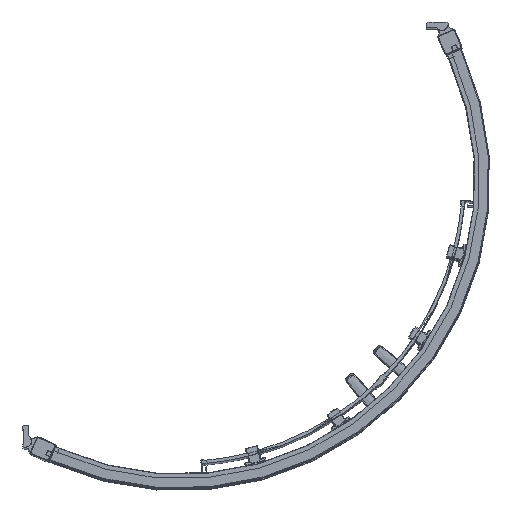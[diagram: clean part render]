
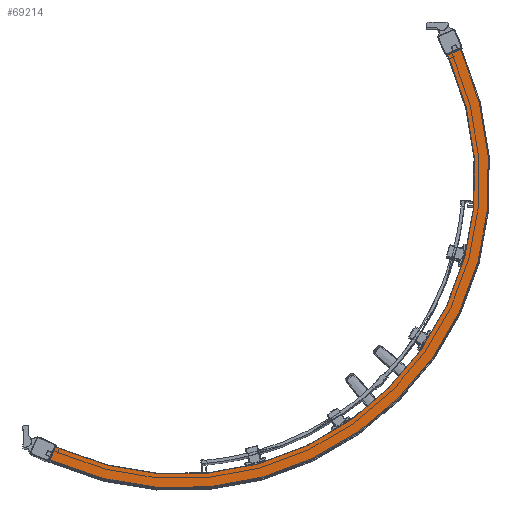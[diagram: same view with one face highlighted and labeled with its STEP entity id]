
A CAD part, top view. The second image highlights one B-rep face of the part: STEP entity #69214.
In plain terms, the highlighted planar face has unit normal (0, 0, 1).
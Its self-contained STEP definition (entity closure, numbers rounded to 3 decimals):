
#6411=FACE_OUTER_BOUND($,#10304,.T.);
#10304=EDGE_LOOP($,(#59110,#59111,#59112,#59113,#59114,#59115,#59116,#59117));
#15682=LINE($,#161779,#21456);
#15750=LINE($,#161982,#21524);
#15754=LINE($,#161992,#21528);
#15916=LINE($,#162450,#21690);
#15920=LINE($,#162457,#21694);
#15921=LINE($,#162459,#21695);
#21456=VECTOR($,#93044,26.4);
#21524=VECTOR($,#93224,10.);
#21528=VECTOR($,#93232,10.);
#21690=VECTOR($,#93724,26.4);
#21694=VECTOR($,#93734,10.);
#21695=VECTOR($,#93737,10.);
#24926=CIRCLE($,#75579,561.6);
#24928=CIRCLE($,#75582,588.);
#30775=VERTEX_POINT($,#161776);
#30776=VERTEX_POINT($,#161778);
#30854=VERTEX_POINT($,#161979);
#30855=VERTEX_POINT($,#161981);
#30857=VERTEX_POINT($,#161986);
#30859=VERTEX_POINT($,#161990);
#30951=VERTEX_POINT($,#162282);
#30953=VERTEX_POINT($,#162287);
#40074=EDGE_CURVE($,#30775,#30776,#15682,.T.);
#40173=EDGE_CURVE($,#30854,#30855,#15750,.T.);
#40178=EDGE_CURVE($,#30857,#30859,#15754,.T.);
#40325=EDGE_CURVE($,#30951,#30854,#24926,.T.);
#40328=EDGE_CURVE($,#30953,#30857,#24928,.T.);
#40411=EDGE_CURVE($,#30859,#30855,#15916,.T.);
#40415=EDGE_CURVE($,#30951,#30776,#15920,.T.);
#40416=EDGE_CURVE($,#30775,#30953,#15921,.T.);
#59110=ORIENTED_EDGE($,*,*,#40415,.T.);
#59111=ORIENTED_EDGE($,*,*,#40074,.F.);
#59112=ORIENTED_EDGE($,*,*,#40416,.T.);
#59113=ORIENTED_EDGE($,*,*,#40328,.T.);
#59114=ORIENTED_EDGE($,*,*,#40178,.T.);
#59115=ORIENTED_EDGE($,*,*,#40411,.T.);
#59116=ORIENTED_EDGE($,*,*,#40173,.F.);
#59117=ORIENTED_EDGE($,*,*,#40325,.F.);
#62083=PLANE($,#75666);
#69214=ADVANCED_FACE($,(#6411),#62083,.F.);
#75579=AXIS2_PLACEMENT_3D($,#162284,#93513,#93514);
#75582=AXIS2_PLACEMENT_3D($,#162290,#93520,#93521);
#75666=AXIS2_PLACEMENT_3D($,#162458,#93735,#93736);
#93044=DIRECTION($,(0.41,0.912,0.));
#93224=DIRECTION($,(-0.41,0.912,0.));
#93232=DIRECTION($,(-0.41,0.912,0.));
#93513=DIRECTION('center_axis',(0.,0.,
1.));
#93514=DIRECTION('ref_axis',(-0.41,-0.912,0.));
#93520=DIRECTION('center_axis',(0.,0.,
1.));
#93521=DIRECTION('ref_axis',(-0.41,-0.912,0.));
#93724=DIRECTION($,(-0.912,-0.41,0.));
#93734=DIRECTION($,(-0.912,0.41,0.));
#93735=DIRECTION('center_axis',(0.,0.,
-1.));
#93736=DIRECTION('ref_axis',(0.41,0.912,0.));
#93737=DIRECTION($,(0.912,-0.41,0.));
#161776=CARTESIAN_POINT('',(-64.727,-126.395,2010.));
#161778=CARTESIAN_POINT('',(-53.898,-102.318,2010.));
#161779=CARTESIAN_POINT($,(-64.727,-126.395,2010.));
#161979=CARTESIAN_POINT('',(697.772,636.129,2010.));
#161981=CARTESIAN_POINT('',(693.67,645.249,2010.));
#161982=CARTESIAN_POINT($,(697.772,636.129,2010.));
#161986=CARTESIAN_POINT('',(721.848,646.959,2010.));
#161990=CARTESIAN_POINT('',(717.746,656.079,2010.));
#161992=CARTESIAN_POINT($,(721.848,646.959,2010.));
#162282=CARTESIAN_POINT('',(-44.778,-106.421,2010.));
#162284=CARTESIAN_POINT('Origin',(185.599,405.752,2010.));
#162287=CARTESIAN_POINT('',(-55.607,-130.497,2010.));
#162290=CARTESIAN_POINT('Origin',(185.599,405.752,2010.));
#162450=CARTESIAN_POINT($,(717.746,656.079,2010.));
#162457=CARTESIAN_POINT($,(-53.898,-102.318,2010.));
#162458=CARTESIAN_POINT('Origin',(-64.727,-126.395,2010.));
#162459=CARTESIAN_POINT($,(-64.727,-126.395,2010.));
